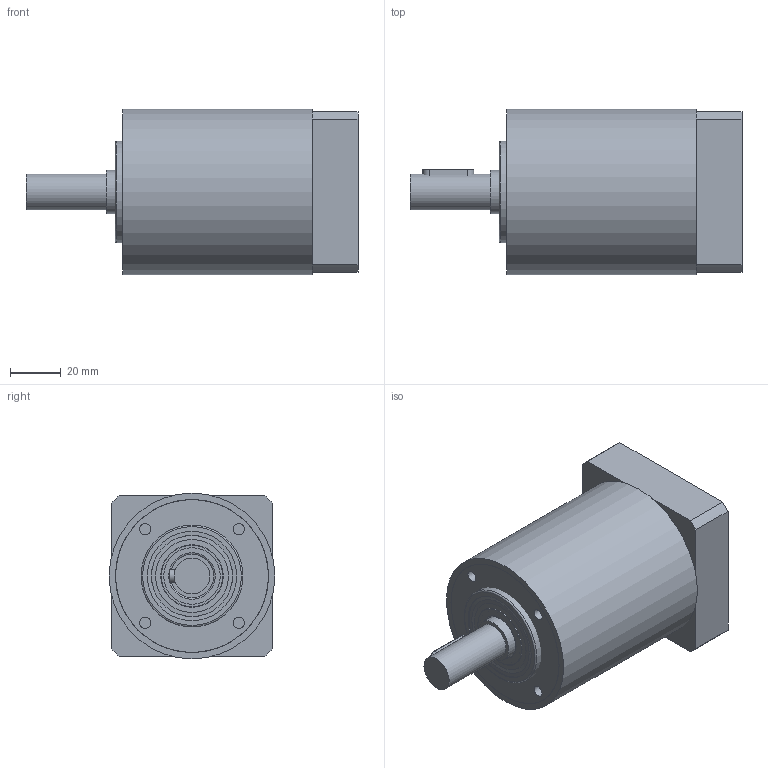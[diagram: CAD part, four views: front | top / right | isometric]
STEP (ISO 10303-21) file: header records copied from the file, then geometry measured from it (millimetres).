
FILE_DESCRIPTION(/* description */ (''),/* implementation_level */ '2;1');
FILE_NAME(/* name */ 'E0001806MP310308152104',/* time_stamp */ '2008-03-31T15:30:39+02:00',/* author */ (''),/* organization */ (''),/* preprocessor_version */ 'ST-DEVELOPER v9',/* originating_system */ 'EDS PLM SOLUTIONS - UNIGRAPHICS NX 2.0',/* authorisation */ '');
FILE_SCHEMA (('CONFIG_CONTROL_DESIGN'));
Length unit declared in the file: millimetre
Products named in the file (1): E0001806MP310308152104_u3d
Bounding box: 130.25 x 65 x 65 mm (x, y, z)
Volume: 377045.5 mm3; surface area: 74505.2 mm2
Topology: 12 solids, 12 shells, 142 faces, 302 edges, 192 vertices
Faces by surface type: cylinder 53, plane 50, cone 29, torus 10
Full cylindrical faces by diameter (mm): 3.432 x5, 4.351 x8, 4.5 x1, 7.5 x1, 9.75 x1, 11 x1, 14 x1, 15 x1, 17 x2, 22.2 x2, 24.5 x2, 32.9 x2, 35 x4, 35.5 x1, 40 x1, 43 x1, 50 x1, 57.4 x1, 59.85 x1, 60 x3, 65 x1
Entity records: 3457 total; most frequent: CARTESIAN_POINT 640, DIRECTION 604, ORIENTED_EDGE 402, AXIS2_PLACEMENT_3D 269, EDGE_LOOP 239, EDGE_CURVE 201, VERTEX_POINT 176, FACE_BOUND 160
